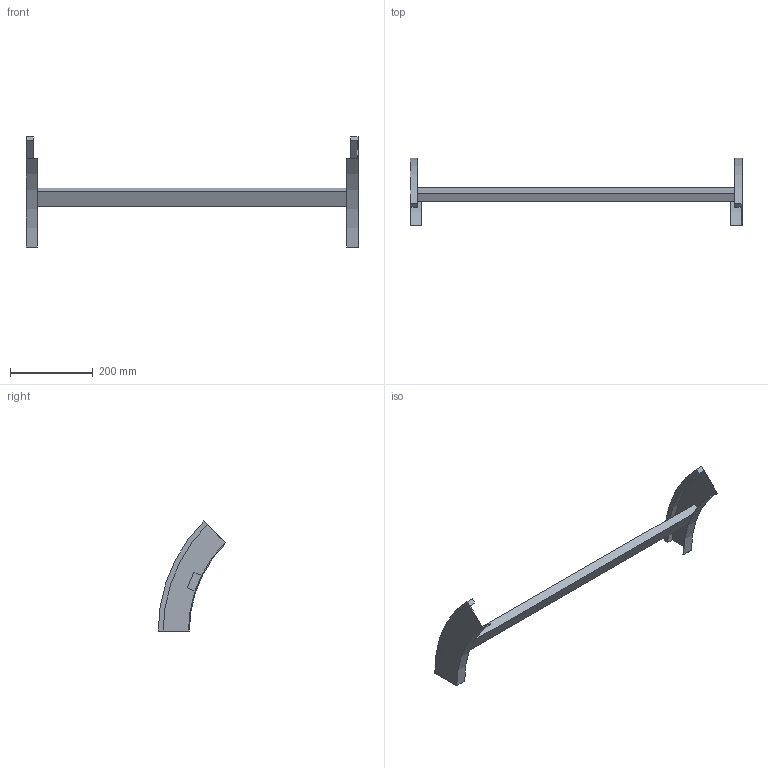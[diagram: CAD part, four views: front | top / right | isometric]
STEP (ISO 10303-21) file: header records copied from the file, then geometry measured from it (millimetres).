
FILE_DESCRIPTION (( 'STEP AP214' ), '1' );
FILE_NAME ('B2_34B3C800.step', '2025-02-21T14:55:45', ( '' ), ( '' ), 'SwSTEP 2.0', 'SolidWorks 2023', '' );
FILE_SCHEMA (( 'AUTOMOTIVE_DESIGN' ));
Length unit declared in the file: millimetre
Products named in the file (3): B2_34B3C800; TRAVERSINO_800; B2_LONGH.DISCESA_45°_H75_R300
Assembly tree (3 placements, depth 2):
  B2_34B3C800
    B2_LONGH.DISCESA_45°_H75_R300  x2
    TRAVERSINO_800
Bounding box: 800 x 162.87 x 265.17 mm (x, y, z)
Volume: 859209.8 mm3; surface area: 223334.6 mm2
Topology: 3 solids, 3 shells, 26 faces, 60 edges, 40 vertices
Faces by surface type: plane 18, cylinder 8
Entity records: 544 total; most frequent: DIRECTION 88, CARTESIAN_POINT 82, ORIENTED_EDGE 72, EDGE_CURVE 36, AXIS2_PLACEMENT_3D 30, VECTOR 28, LINE 28, VERTEX_POINT 24
